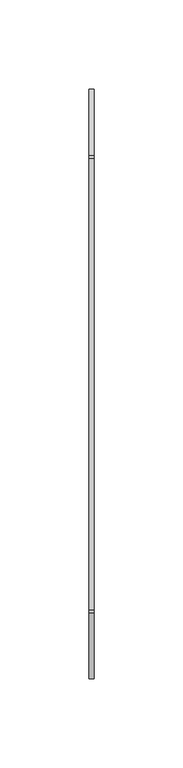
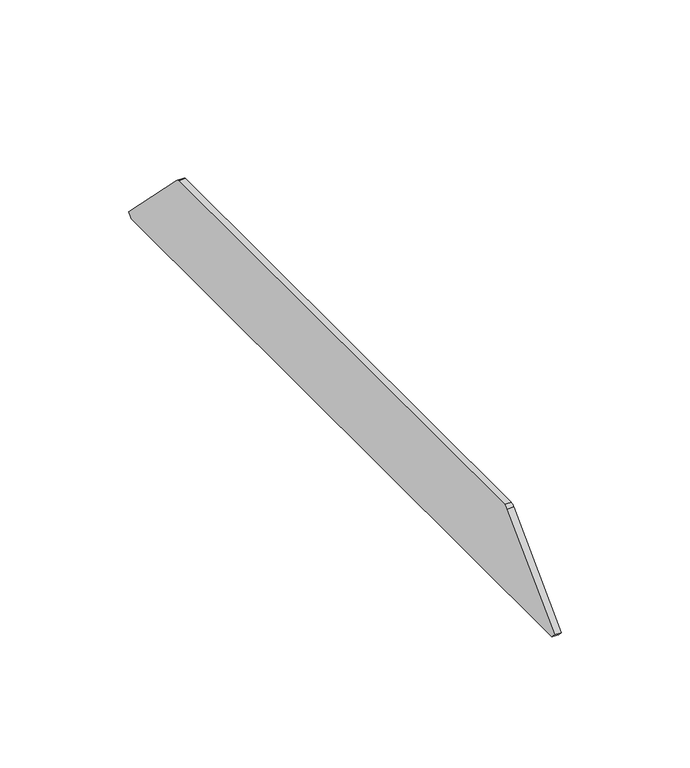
"""IFC4 building model written with IfcOpenShell, lengths in millimetres: cable carrier fitting geometry, Electrical_Installation_Hager_End-Piece : Electrical_Installation_Hager_End-Piece."""

from ifc_helpers import new_model, si_unit, point, frame, frame_2d, origin, place, context, project, spatial, polyline, circle_curve, trimmed, segment, composite_curve, outline, extrude, source, transform, mapped, element, save


def cable_carrier_fitting_8189a595(model_context):
    return source(origin(), model_context, "Body", "SweptSolid", [
        extrude(outline(composite_curve([segment(polyline([(165.7213203, -17.8786797), (163.6, -20.0), (-163.6, -20.0), (-165.7213203, -17.8786797), (-128.5142136, 19.3284271)]), True, "CONTINUOUS"), segment(trimmed(circle_curve(frame_2d((-126.0170755, 17.4593317)), 3.1191692), [point((-128.5142136, 19.3284271))], [point((-126.7124549, 20.5))], False, "CARTESIAN"), True, "CONTINUOUS"), segment(polyline([(-126.7124549, 20.5), (126.7124549, 20.5)]), True, "CONTINUOUS"), segment(trimmed(circle_curve(frame_2d((125.5004738, 16.6648514)), 4.0220969), [point((126.7124549, 20.5))], [point((128.5142136, 19.3284271))], False, "CARTESIAN"), True, "CONTINUOUS"), segment(polyline([(128.5142136, 19.3284271), (165.7213203, -17.8786797)]), True, "CONTINUOUS")], self_intersect=False)), frame((0.0, 0.0, 0.0), z_axis=(1.0, 0.0, 0.0), x_axis=(0.0, 1.0, 0.0)), (0.0, 0.0, 1.0), 3.0),
    ])


if __name__ == "__main__":
    model = new_model("IFC4")
    model_context = context("Model", 3, world=origin())
    ifc_project = project(units=[si_unit("LENGTHUNIT", "METRE", prefix="MILLI")], contexts=[model_context])
    site = spatial("IfcSite", under=ifc_project)
    building = spatial("IfcBuilding", under=site)
    placement = place(None, origin())
    cable_carrier_fitting_shape = cable_carrier_fitting_8189a595(model_context)
    element("IfcCableCarrierFitting", 1, ObjectType="Electrical_Installation_Hager_End-Piece : Electrical_Installation_Hager_End-Piece", at=placement, inside=building, context=model_context, shape_type="MappedRepresentation", body=[
        mapped(cable_carrier_fitting_shape, transform((0.0, 0.0, 0.0), x_axis=(1.0, 0.0, 0.0), y_axis=(0.0, 1.0, 0.0), z_axis=(0.0, 0.0, 1.0))),
    ])
    save(model, "model.ifc")
